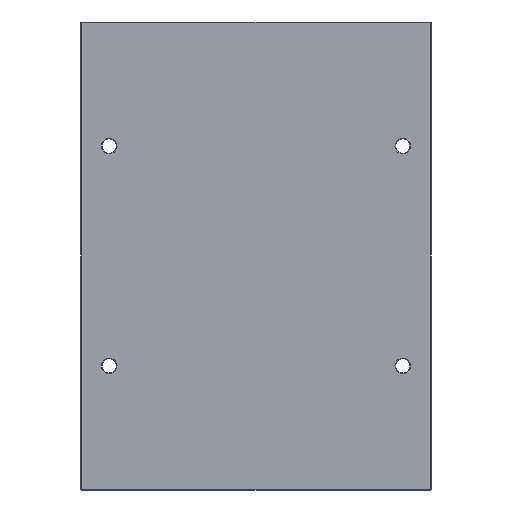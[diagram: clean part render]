
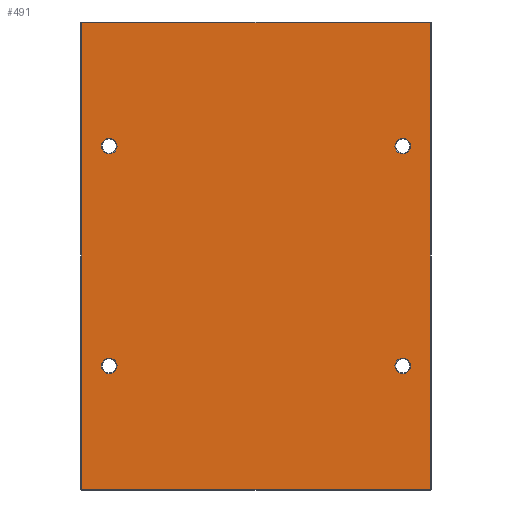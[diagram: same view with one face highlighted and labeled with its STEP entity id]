
A CAD part, front view. The second image highlights one B-rep face of the part: STEP entity #491.
In plain terms, the highlighted planar face has unit normal (0, -1, 0).
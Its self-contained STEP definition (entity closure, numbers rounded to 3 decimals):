
#41 = DIRECTION ( 'NONE',  ( 0., 1., 0. ) ) ;
#69 = ORIENTED_EDGE ( 'NONE', *, *, #1560, .T. ) ;
#119 = EDGE_LOOP ( 'NONE', ( #699, #470 ) ) ;
#124 = ORIENTED_EDGE ( 'NONE', *, *, #1342, .T. ) ;
#126 = CARTESIAN_POINT ( 'NONE',  ( 222., 0., 297. ) ) ;
#203 = ORIENTED_EDGE ( 'NONE', *, *, #1480, .T. ) ;
#220 = FACE_BOUND ( 'NONE', #119, .T. ) ;
#227 = ORIENTED_EDGE ( 'NONE', *, *, #359, .T. ) ;
#259 = EDGE_CURVE ( 'NONE', #892, #1129, #709, .T. ) ;
#261 = AXIS2_PLACEMENT_3D ( 'NONE', #860, #868, #872 ) ;
#263 = CARTESIAN_POINT ( 'NONE',  ( 222., 0., -297. ) ) ;
#359 = EDGE_CURVE ( 'NONE', #1223, #628, #749, .T. ) ;
#378 = CIRCLE ( 'NONE', #852, 10. ) ;
#390 = EDGE_CURVE ( 'NONE', #675, #1476, #671, .T. ) ;
#453 = LINE ( 'NONE', #757, #1137 ) ;
#459 = DIRECTION ( 'NONE',  ( -1., 0., 0. ) ) ;
#470 = ORIENTED_EDGE ( 'NONE', *, *, #485, .T. ) ;
#480 = FACE_BOUND ( 'NONE', #917, .T. ) ;
#485 = EDGE_CURVE ( 'NONE', #864, #1591, #1236, .T. ) ;
#491 = ADVANCED_FACE ( 'NONE', ( #1520, #220, #843, #480, #528 ), #1122, .F. ) ;
#498 = CARTESIAN_POINT ( 'NONE',  ( 187., 0., -140. ) ) ;
#507 = ORIENTED_EDGE ( 'NONE', *, *, #1614, .T. ) ;
#517 = CIRCLE ( 'NONE', #654, 10. ) ;
#519 = CARTESIAN_POINT ( 'NONE',  ( -187., 0., -140. ) ) ;
#528 = FACE_OUTER_BOUND ( 'NONE', #1355, .T. ) ;
#531 = DIRECTION ( 'NONE',  ( 0., 1., 0. ) ) ;
#550 = DIRECTION ( 'NONE',  ( 0., 0., 1. ) ) ;
#568 = CARTESIAN_POINT ( 'NONE',  ( 0., 0., 297. ) ) ;
#576 = VERTEX_POINT ( 'NONE', #1242 ) ;
#612 = CARTESIAN_POINT ( 'NONE',  ( -187., 0., -140. ) ) ;
#615 = DIRECTION ( 'NONE',  ( 0., 1., 0. ) ) ;
#618 = DIRECTION ( 'NONE',  ( 0., 0., 1. ) ) ;
#628 = VERTEX_POINT ( 'NONE', #1311 ) ;
#654 = AXIS2_PLACEMENT_3D ( 'NONE', #519, #41, #1243 ) ;
#671 = LINE ( 'NONE', #988, #708 ) ;
#675 = VERTEX_POINT ( 'NONE', #1382 ) ;
#682 = EDGE_LOOP ( 'NONE', ( #227, #124 ) ) ;
#687 = DIRECTION ( 'NONE',  ( 0., 0., 1. ) ) ;
#696 = ORIENTED_EDGE ( 'NONE', *, *, #259, .T. ) ;
#699 = ORIENTED_EDGE ( 'NONE', *, *, #931, .T. ) ;
#708 = VECTOR ( 'NONE', #985, 1000. ) ;
#709 = CIRCLE ( 'NONE', #1179, 10. ) ;
#749 = CIRCLE ( 'NONE', #261, 10. ) ;
#757 = CARTESIAN_POINT ( 'NONE',  ( 222., 0., 0. ) ) ;
#762 = CARTESIAN_POINT ( 'NONE',  ( 187., 0., 150. ) ) ;
#798 = CARTESIAN_POINT ( 'NONE',  ( -187., 0., -130. ) ) ;
#812 = VERTEX_POINT ( 'NONE', #263 ) ;
#843 = FACE_BOUND ( 'NONE', #682, .T. ) ;
#852 = AXIS2_PLACEMENT_3D ( 'NONE', #498, #531, #550 ) ;
#860 = CARTESIAN_POINT ( 'NONE',  ( -187., 0., 140. ) ) ;
#862 = ORIENTED_EDGE ( 'NONE', *, *, #390, .T. ) ;
#864 = VERTEX_POINT ( 'NONE', #762 ) ;
#868 = DIRECTION ( 'NONE',  ( 0., 1., 0. ) ) ;
#869 = EDGE_CURVE ( 'NONE', #812, #1541, #453, .T. ) ;
#872 = DIRECTION ( 'NONE',  ( 0., 0., 1. ) ) ;
#892 = VERTEX_POINT ( 'NONE', #798 ) ;
#903 = CARTESIAN_POINT ( 'NONE',  ( -222., 0., -297. ) ) ;
#917 = EDGE_LOOP ( 'NONE', ( #507, #696 ) ) ;
#927 = CIRCLE ( 'NONE', #1279, 10. ) ;
#931 = EDGE_CURVE ( 'NONE', #1591, #864, #1425, .T. ) ;
#973 = VERTEX_POINT ( 'NONE', #1088 ) ;
#980 = CARTESIAN_POINT ( 'NONE',  ( 187., 0., 130. ) ) ;
#985 = DIRECTION ( 'NONE',  ( 0., 0., -1. ) ) ;
#988 = CARTESIAN_POINT ( 'NONE',  ( -222., 0., 0. ) ) ;
#992 = ORIENTED_EDGE ( 'NONE', *, *, #1013, .T. ) ;
#1013 = EDGE_CURVE ( 'NONE', #1476, #812, #1314, .T. ) ;
#1014 = AXIS2_PLACEMENT_3D ( 'NONE', #1154, #1166, #1176 ) ;
#1050 = AXIS2_PLACEMENT_3D ( 'NONE', #1141, #1143, #1151 ) ;
#1077 = EDGE_CURVE ( 'NONE', #973, #576, #927, .T. ) ;
#1084 = CARTESIAN_POINT ( 'NONE',  ( -187., 0., 140. ) ) ;
#1088 = CARTESIAN_POINT ( 'NONE',  ( 187., 0., -150. ) ) ;
#1121 = DIRECTION ( 'NONE',  ( 0., 1., 0. ) ) ;
#1122 = PLANE ( 'NONE',  #1312 ) ;
#1129 = VERTEX_POINT ( 'NONE', #1160 ) ;
#1133 = CARTESIAN_POINT ( 'NONE',  ( 0., 0., 0. ) ) ;
#1137 = VECTOR ( 'NONE', #687, 1000. ) ;
#1140 = DIRECTION ( 'NONE',  ( 0., 0., 1. ) ) ;
#1141 = CARTESIAN_POINT ( 'NONE',  ( 187., 0., 140. ) ) ;
#1143 = DIRECTION ( 'NONE',  ( 0., 1., 0. ) ) ;
#1151 = DIRECTION ( 'NONE',  ( 0., 0., 1. ) ) ;
#1152 = DIRECTION ( 'NONE',  ( 0., 1., 0. ) ) ;
#1154 = CARTESIAN_POINT ( 'NONE',  ( 187., 0., 140. ) ) ;
#1157 = DIRECTION ( 'NONE',  ( 0., 0., 1. ) ) ;
#1160 = CARTESIAN_POINT ( 'NONE',  ( -187., 0., -150. ) ) ;
#1166 = DIRECTION ( 'NONE',  ( 0., 1., 0. ) ) ;
#1176 = DIRECTION ( 'NONE',  ( 0., 0., 1. ) ) ;
#1179 = AXIS2_PLACEMENT_3D ( 'NONE', #612, #615, #618 ) ;
#1196 = CIRCLE ( 'NONE', #1438, 10. ) ;
#1199 = CARTESIAN_POINT ( 'NONE',  ( -187., 0., 130. ) ) ;
#1223 = VERTEX_POINT ( 'NONE', #1199 ) ;
#1236 = CIRCLE ( 'NONE', #1050, 10. ) ;
#1242 = CARTESIAN_POINT ( 'NONE',  ( 187., 0., -130. ) ) ;
#1243 = DIRECTION ( 'NONE',  ( 0., 0., 1. ) ) ;
#1245 = ORIENTED_EDGE ( 'NONE', *, *, #869, .T. ) ;
#1271 = VECTOR ( 'NONE', #1392, 1000. ) ;
#1276 = ORIENTED_EDGE ( 'NONE', *, *, #1077, .T. ) ;
#1279 = AXIS2_PLACEMENT_3D ( 'NONE', #1644, #1648, #1655 ) ;
#1311 = CARTESIAN_POINT ( 'NONE',  ( -187., 0., 150. ) ) ;
#1312 = AXIS2_PLACEMENT_3D ( 'NONE', #1133, #1152, #1157 ) ;
#1314 = LINE ( 'NONE', #1420, #1271 ) ;
#1342 = EDGE_CURVE ( 'NONE', #628, #1223, #1196, .T. ) ;
#1355 = EDGE_LOOP ( 'NONE', ( #1245, #203, #862, #992 ) ) ;
#1382 = CARTESIAN_POINT ( 'NONE',  ( -222., 0., 297. ) ) ;
#1392 = DIRECTION ( 'NONE',  ( 1., 0., 0. ) ) ;
#1420 = CARTESIAN_POINT ( 'NONE',  ( 0., 0., -297. ) ) ;
#1425 = CIRCLE ( 'NONE', #1014, 10. ) ;
#1438 = AXIS2_PLACEMENT_3D ( 'NONE', #1084, #1121, #1140 ) ;
#1474 = EDGE_LOOP ( 'NONE', ( #1276, #69 ) ) ;
#1476 = VERTEX_POINT ( 'NONE', #903 ) ;
#1480 = EDGE_CURVE ( 'NONE', #1541, #675, #1566, .T. ) ;
#1520 = FACE_BOUND ( 'NONE', #1474, .T. ) ;
#1533 = VECTOR ( 'NONE', #459, 1000. ) ;
#1541 = VERTEX_POINT ( 'NONE', #126 ) ;
#1560 = EDGE_CURVE ( 'NONE', #576, #973, #378, .T. ) ;
#1566 = LINE ( 'NONE', #568, #1533 ) ;
#1591 = VERTEX_POINT ( 'NONE', #980 ) ;
#1614 = EDGE_CURVE ( 'NONE', #1129, #892, #517, .T. ) ;
#1644 = CARTESIAN_POINT ( 'NONE',  ( 187., 0., -140. ) ) ;
#1648 = DIRECTION ( 'NONE',  ( 0., 1., 0. ) ) ;
#1655 = DIRECTION ( 'NONE',  ( 0., 0., 1. ) ) ;
